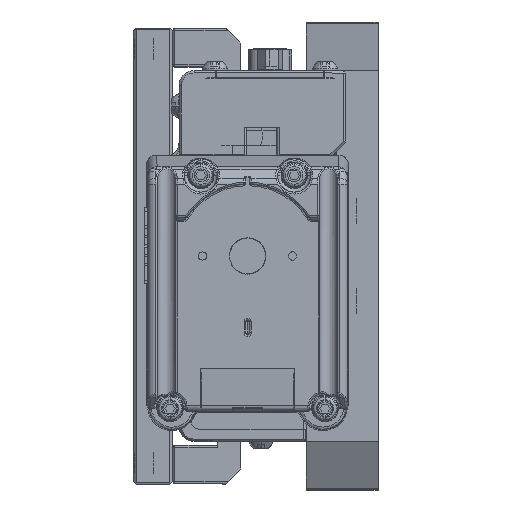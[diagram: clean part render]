
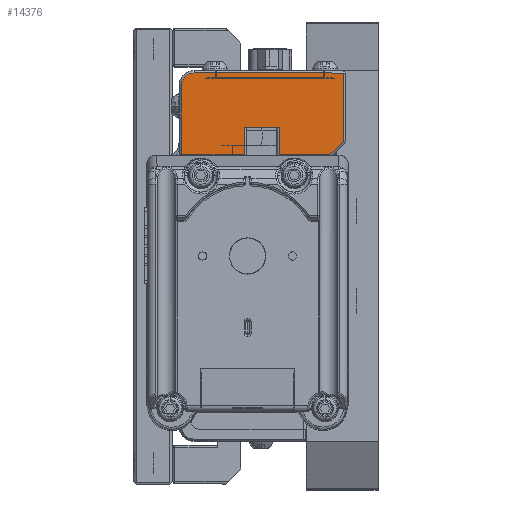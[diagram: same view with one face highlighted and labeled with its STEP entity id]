
A CAD part, left-side view. The second image highlights one B-rep face of the part: STEP entity #14376.
In plain terms, the highlighted planar face has unit normal (-1, 0, 0).
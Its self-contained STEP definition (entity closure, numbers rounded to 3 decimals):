
#2389 = CIRCLE ( 'NONE', #64300, 2.667 ) ;
#3025 = CARTESIAN_POINT ( 'NONE',  ( -73.66, 28.27, 66.548 ) ) ;
#3085 = ORIENTED_EDGE ( 'NONE', *, *, #43357, .T. ) ;
#6108 = DIRECTION ( 'NONE',  ( 0., 0., 1. ) ) ;
#6362 = DIRECTION ( 'NONE',  ( -1., 0., 0. ) ) ;
#6385 = CARTESIAN_POINT ( 'NONE',  ( -73.66, 42.113, 78.486 ) ) ;
#7686 = PLANE ( 'NONE',  #79787 ) ;
#10951 = DIRECTION ( 'NONE',  ( 0., 0., 1. ) ) ;
#11370 = CARTESIAN_POINT ( 'NONE',  ( -73.66, 28.27, 78.486 ) ) ;
#12550 = EDGE_LOOP ( 'NONE', ( #129117, #43367, #84130, #21453, #44631, #62199, #37251, #53573, #116680, #3085 ) ) ;
#14376 = ADVANCED_FACE ( 'NONE', ( #50070 ), #7686, .T. ) ;
#16886 = VECTOR ( 'NONE', #10951, 1000. ) ;
#20028 = LINE ( 'NONE', #11370, #16886 ) ;
#21453 = ORIENTED_EDGE ( 'NONE', *, *, #42393, .T. ) ;
#27036 = DIRECTION ( 'NONE',  ( 0., -1., 0. ) ) ;
#27801 = CARTESIAN_POINT ( 'NONE',  ( -73.66, 42.113, 66.548 ) ) ;
#32440 = LINE ( 'NONE', #106875, #109580 ) ;
#33543 = VERTEX_POINT ( 'NONE', #38958 ) ;
#33631 = VECTOR ( 'NONE', #66045, 1000. ) ;
#34024 = LINE ( 'NONE', #27801, #117559 ) ;
#37000 = DIRECTION ( 'NONE',  ( 0., 0., -1. ) ) ;
#37251 = ORIENTED_EDGE ( 'NONE', *, *, #74787, .F. ) ;
#38332 = CARTESIAN_POINT ( 'NONE',  ( -73.66, 42.113, 60.706 ) ) ;
#38478 = VERTEX_POINT ( 'NONE', #124966 ) ;
#38617 = LINE ( 'NONE', #130040, #62154 ) ;
#38958 = CARTESIAN_POINT ( 'NONE',  ( -73.66, 10.193, 60.706 ) ) ;
#41394 = EDGE_CURVE ( 'NONE', #124787, #38478, #34024, .T. ) ;
#42393 = EDGE_CURVE ( 'NONE', #38478, #54438, #38617, .T. ) ;
#42548 = EDGE_CURVE ( 'NONE', #95939, #88738, #2389, .T. ) ;
#43085 = CARTESIAN_POINT ( 'NONE',  ( -73.66, 20.904, 60.706 ) ) ;
#43357 = EDGE_CURVE ( 'NONE', #88738, #111308, #60439, .T. ) ;
#43367 = ORIENTED_EDGE ( 'NONE', *, *, #44152, .T. ) ;
#43506 = VERTEX_POINT ( 'NONE', #58418 ) ;
#44152 = EDGE_CURVE ( 'NONE', #80630, #124787, #20028, .T. ) ;
#44631 = ORIENTED_EDGE ( 'NONE', *, *, #71723, .T. ) ;
#50070 = FACE_OUTER_BOUND ( 'NONE', #12550, .T. ) ;
#50864 = CARTESIAN_POINT ( 'NONE',  ( -73.66, 42.113, 60.706 ) ) ;
#51062 = EDGE_CURVE ( 'NONE', #108180, #95939, #99308, .T. ) ;
#53573 = ORIENTED_EDGE ( 'NONE', *, *, #51062, .T. ) ;
#54438 = VERTEX_POINT ( 'NONE', #43085 ) ;
#56148 = LINE ( 'NONE', #97201, #85917 ) ;
#56848 = DIRECTION ( 'NONE',  ( 0., 0.707, -0.707 ) ) ;
#57386 = CARTESIAN_POINT ( 'NONE',  ( -73.66, 7.315, 77.978 ) ) ;
#58418 = CARTESIAN_POINT ( 'NONE',  ( -73.66, 7.315, 63.583 ) ) ;
#60439 = LINE ( 'NONE', #66721, #33631 ) ;
#62154 = VECTOR ( 'NONE', #130062, 1000. ) ;
#62199 = ORIENTED_EDGE ( 'NONE', *, *, #74772, .F. ) ;
#64132 = VECTOR ( 'NONE', #128952, 1000. ) ;
#64300 = AXIS2_PLACEMENT_3D ( 'NONE', #119742, #119716, #119568 ) ;
#64432 = EDGE_CURVE ( 'NONE', #111308, #80630, #90850, .T. ) ;
#65887 = VECTOR ( 'NONE', #121265, 1000. ) ;
#66045 = DIRECTION ( 'NONE',  ( 0., 0., -1. ) ) ;
#66721 = CARTESIAN_POINT ( 'NONE',  ( -73.66, 41.605, 78.486 ) ) ;
#69181 = DIRECTION ( 'NONE',  ( 0., 1., 0. ) ) ;
#69853 = CARTESIAN_POINT ( 'NONE',  ( -73.66, 42.113, 77.978 ) ) ;
#71723 = EDGE_CURVE ( 'NONE', #54438, #33543, #89427, .T. ) ;
#72558 = VECTOR ( 'NONE', #69181, 1000. ) ;
#74772 = EDGE_CURVE ( 'NONE', #43506, #33543, #32440, .T. ) ;
#74783 = CARTESIAN_POINT ( 'NONE',  ( -73.66, 41.605, 75.311 ) ) ;
#74787 = EDGE_CURVE ( 'NONE', #108180, #43506, #56148, .T. ) ;
#79787 = AXIS2_PLACEMENT_3D ( 'NONE', #6385, #6362, #6108 ) ;
#80630 = VERTEX_POINT ( 'NONE', #122853 ) ;
#84130 = ORIENTED_EDGE ( 'NONE', *, *, #41394, .T. ) ;
#85917 = VECTOR ( 'NONE', #37000, 1000. ) ;
#88738 = VERTEX_POINT ( 'NONE', #74783 ) ;
#88896 = CARTESIAN_POINT ( 'NONE',  ( -73.66, 41.605, 60.706 ) ) ;
#89427 = LINE ( 'NONE', #50864, #65887 ) ;
#90850 = LINE ( 'NONE', #38332, #64132 ) ;
#95939 = VERTEX_POINT ( 'NONE', #98820 ) ;
#97201 = CARTESIAN_POINT ( 'NONE',  ( -73.66, 7.315, 78.486 ) ) ;
#98820 = CARTESIAN_POINT ( 'NONE',  ( -73.66, 38.938, 77.978 ) ) ;
#99308 = LINE ( 'NONE', #69853, #72558 ) ;
#106875 = CARTESIAN_POINT ( 'NONE',  ( -73.66, 7.315, 63.583 ) ) ;
#108180 = VERTEX_POINT ( 'NONE', #57386 ) ;
#109580 = VECTOR ( 'NONE', #56848, 1000. ) ;
#111308 = VERTEX_POINT ( 'NONE', #88896 ) ;
#116680 = ORIENTED_EDGE ( 'NONE', *, *, #42548, .T. ) ;
#117559 = VECTOR ( 'NONE', #27036, 1000. ) ;
#119568 = DIRECTION ( 'NONE',  ( 0., 0., -1. ) ) ;
#119716 = DIRECTION ( 'NONE',  ( -1., 0., 0. ) ) ;
#119742 = CARTESIAN_POINT ( 'NONE',  ( -73.66, 38.938, 75.311 ) ) ;
#121265 = DIRECTION ( 'NONE',  ( 0., -1., 0. ) ) ;
#122853 = CARTESIAN_POINT ( 'NONE',  ( -73.66, 28.27, 60.706 ) ) ;
#124787 = VERTEX_POINT ( 'NONE', #3025 ) ;
#124966 = CARTESIAN_POINT ( 'NONE',  ( -73.66, 20.904, 66.548 ) ) ;
#128952 = DIRECTION ( 'NONE',  ( 0., -1., 0. ) ) ;
#129117 = ORIENTED_EDGE ( 'NONE', *, *, #64432, .T. ) ;
#130040 = CARTESIAN_POINT ( 'NONE',  ( -73.66, 20.904, 78.486 ) ) ;
#130062 = DIRECTION ( 'NONE',  ( 0., 0., -1. ) ) ;
